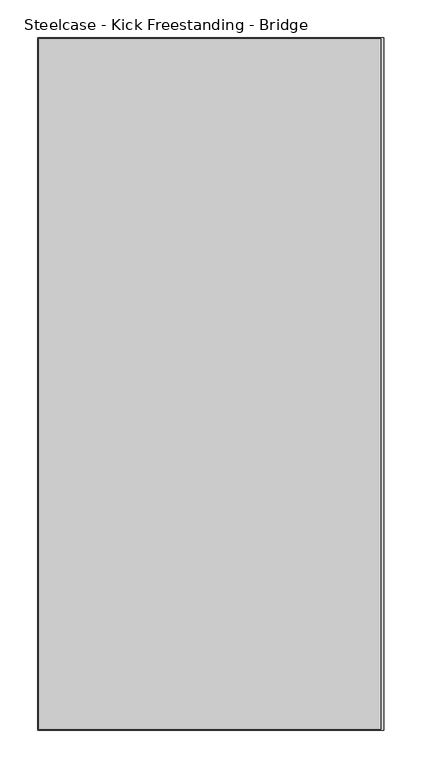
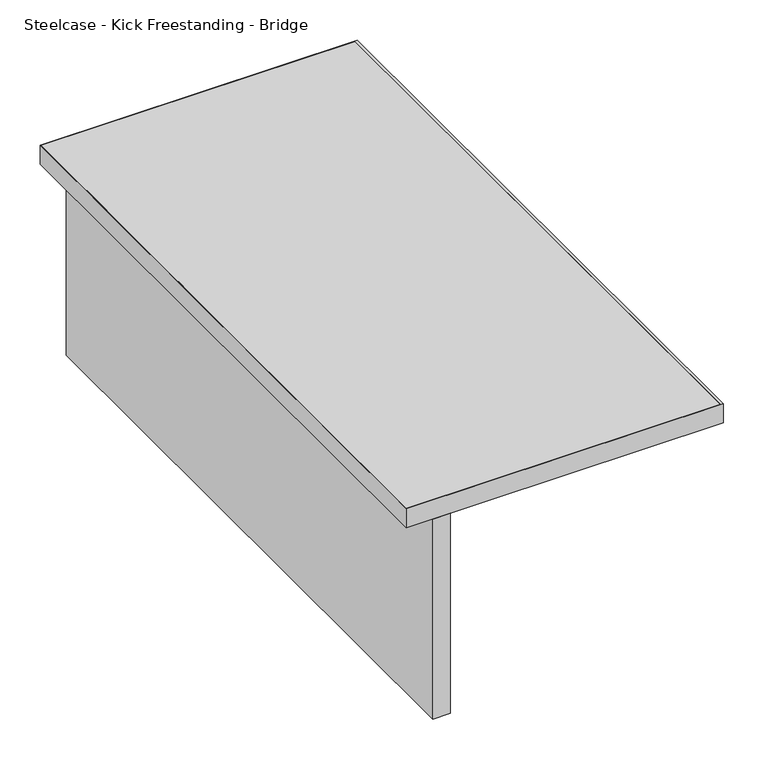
"""IFC4 building model written with IfcOpenShell, lengths in millimetres: furniture geometry, Steelcase - Kick Freestanding - Bridge : 18D x 36W - Half Panel."""

from ifc_helpers import new_model, si_unit, frame, origin, place, context, project, spatial, polyline, outline, extrude, source, transform, mapped, element, save


def steelcase_kick_freestanding_bridge_1481ca81(model_context):
    return source(origin(), model_context, "Body", "SweptSolid", [
        extrude(outline(polyline([(2201.9594425, -1461.2145152), (2201.9594425, -546.8145152), (2227.3594425, -546.8145152), (2227.3594425, -1461.2145152), (2201.9594425, -1461.2145152)])), frame((0.0, 0.0, 377.444), z_axis=(0.0, 0.0, 1.0), x_axis=(1.0, 0.0, 0.0)), (0.0, 0.0, 1.0), 304.8),
        extrude(outline(polyline([(2616.8176592, -548.0845152), (2616.8176592, -1459.9445152), (2164.8500425, -1459.9445152), (2164.8500425, -548.0845152), (2616.8176592, -548.0845152)])), frame((0.0, 0.0, 682.244), z_axis=(0.0, 0.0, 1.0), x_axis=(1.0, 0.0, 0.0)), (0.0, 0.0, 1.0), 28.956),
        extrude(outline(polyline([(2621.0594425, -546.8145152), (2621.0594425, -1461.2145152), (2163.8594425, -1461.2145152), (2163.8594425, -546.8145152), (2621.0594425, -546.8145152)]), holes=[polyline([(2616.8176592, -548.0845152), (2164.8500425, -548.0845152), (2164.8500425, -1459.9445152), (2616.8176592, -1459.9445152), (2616.8176592, -548.0845152)])]), frame((0.0, 0.0, 682.244), z_axis=(0.0, 0.0, 1.0), x_axis=(1.0, 0.0, 0.0)), (0.0, 0.0, 1.0), 28.956),
    ])


if __name__ == "__main__":
    model = new_model("IFC4")
    model_context = context("Model", 3, world=origin())
    ifc_project = project(units=[si_unit("LENGTHUNIT", "METRE", prefix="MILLI")], contexts=[model_context])
    site = spatial("IfcSite", under=ifc_project)
    building = spatial("IfcBuilding", under=site)
    placement = place(None, origin())
    steelcase_kick_freestanding_bridge_shape = steelcase_kick_freestanding_bridge_1481ca81(model_context)
    element("IfcFurniture", 1, ObjectType="Steelcase - Kick Freestanding - Bridge : 18D x 36W - Half Panel", at=placement, inside=building, context=model_context, shape_type="MappedRepresentation", body=[
        mapped(steelcase_kick_freestanding_bridge_shape, transform((0.0, 0.0, 0.0), x_axis=(1.0, 0.0, 0.0), y_axis=(0.0, 1.0, 0.0), z_axis=(0.0, 0.0, 1.0))),
    ])
    save(model, "model.ifc")
